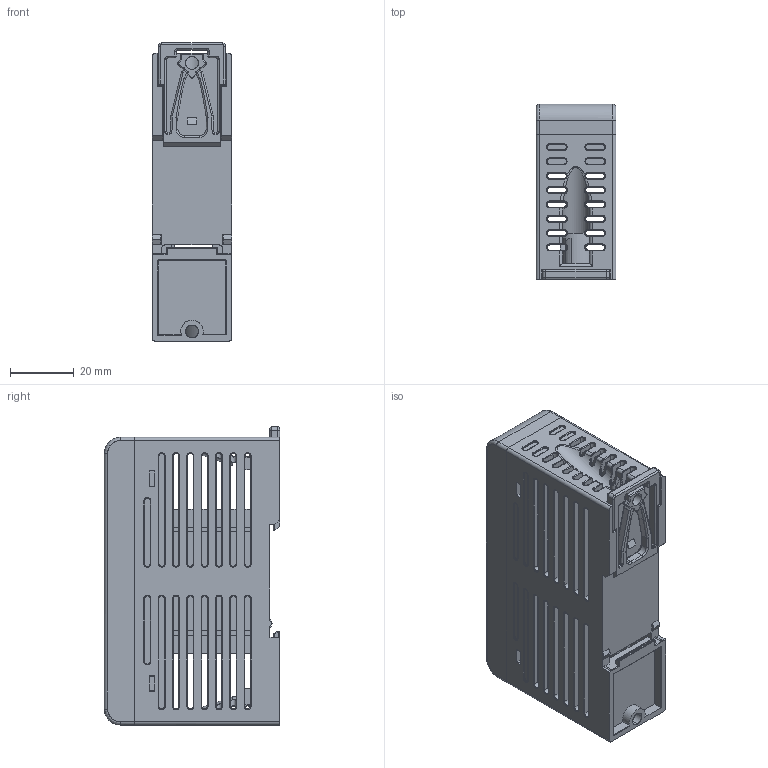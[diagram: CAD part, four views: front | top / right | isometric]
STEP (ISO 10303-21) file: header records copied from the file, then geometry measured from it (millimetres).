
FILE_DESCRIPTION(/* description */ (''),/* implementation_level */ '2;1');
FILE_NAME(/* name */ 'B124E7~1',/* time_stamp */ '2021-06-11T14:05:35+08:00',/* author */ (''),/* organization */ (''),/* preprocessor_version */ 'ST-DEVELOPER v16.5',/* originating_system */ '',/* authorisation */ '');
FILE_SCHEMA (('CONFIG_CONTROL_DESIGN'));
Products named in the file (3): Document; JOIN; Block 02
Assembly tree (2 placements, depth 3):
  Document
    JOIN
      Block 02
Bounding box: 25 x 54.8 x 93.25 mm (x, y, z)
Surface area: 29056.7 mm2 (no closed solid volume)
Topology: 0 solids, 1273 shells, 1273 faces, 6644 edges, 6642 vertices
Faces by surface type: plane 515, cylinder 479, bspline 279
Entity records: 92871 total; most frequent: CARTESIAN_POINT 48421, ORIENTED_EDGE 6644, EDGE_CURVE 6644, VERTEX_POINT 6642, B_SPLINE_CURVE_WITH_KNOTS 4531, EDGE_LOOP 1362, SHELL_BASED_SURFACE_MODEL 1273, OPEN_SHELL 1273
